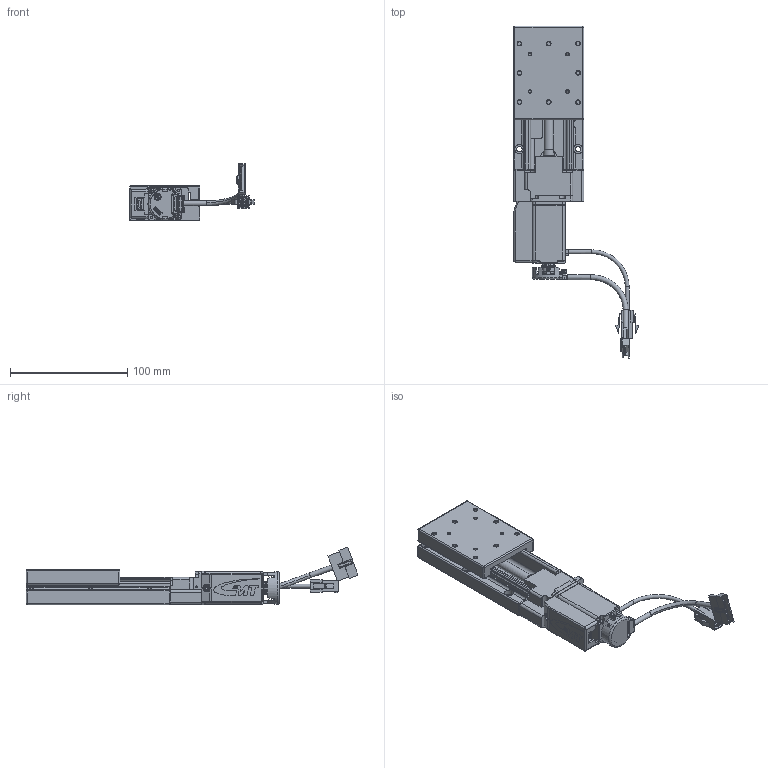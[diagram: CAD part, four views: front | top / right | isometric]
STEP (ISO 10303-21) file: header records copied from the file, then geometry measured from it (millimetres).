
FILE_DESCRIPTION(/* description */ (''),/* implementation_level */ '2;1');
FILE_NAME(/* name */ 'CXS6050-Ezi-Servo-PR-28M',/* time_stamp */ '2023-02-09T21:12:30+01:00',/* author */ (''),/* organization */ ('GMT Europe'),/* preprocessor_version */ 'ST-DEVELOPER v16.7',/* originating_system */ 'Solid Edge',/* authorisation */ 'Unknown');
FILE_SCHEMA (('AUTOMOTIVE_DESIGN {1 0 10303 214 3 1 1}'));
Products named in the file (24): CXS6050-Ezi-Servo-PR-28M; CXS6050; CXS6050-60; CXS6050-50; Motorflansch-ix-001; ISO 4762_M2,5x5_8.8; ISO 4762_M3x10_8.8; Ezi-SERVO-Plus-R; 馨檜蝶; SW3dPS-R28i_R28i_Hub; SW3dPS-R28i_R28i_Disk; SW3dPS-R28i_R28i_PCB; SW3dPS-R28i_Connector; SW3dPS-R28i_R28i_BaseStandoff; SW3dPS-R28i_R28i_LeadFrame; SW3dPS-R28i_R28i_Cover; encoder_cable_28; 馨檜綰; Power_Cable_20; M11-MO-028-03-R01; Gehäuse-ix-001; Platine-ix-001; PCB ix Industrial-001; 09452819001
Assembly tree (23 placements, depth 4):
  CXS6050-Ezi-Servo-PR-28M
    CXS6050
      CXS6050-60
      CXS6050-50
    Motorflansch-ix-001
    ISO 4762_M2,5x5_8.8
    ISO 4762_M3x10_8.8
    Ezi-SERVO-Plus-R
      馨檜蝶
        SW3dPS-R28i_R28i_Hub
        SW3dPS-R28i_R28i_Disk
        SW3dPS-R28i_R28i_PCB
        SW3dPS-R28i_Connector
        SW3dPS-R28i_R28i_BaseStandoff
        SW3dPS-R28i_R28i_LeadFrame
        SW3dPS-R28i_R28i_Cover
        encoder_cable_28
      馨檜綰
        Power_Cable_20
      M11-MO-028-03-R01
    Gehäuse-ix-001
    Platine-ix-001
      PCB ix Industrial-001
      09452819001
Bounding box: 106.51 x 283.19 x 49.45 mm (x, y, z)
Volume: 208521.4 mm3; surface area: 91540.9 mm2
Topology: 18 solids, 18 shells, 4516 faces, 12320 edges, 8106 vertices
Faces by surface type: plane 3218, cylinder 854, bspline 307, cone 80, torus 39, sphere 18
Full cylindrical faces by diameter (mm): 0.9 x54, 1 x15, 1.4 x54, 1.45 x2, 1.5 x4, 1.57 x1, 1.6 x2, 2.013 x2, 2.05 x4, 2.1 x2, 2.459 x1, 2.5 x6, 2.8 x4, 3 x2, 3.172 x1, 3.2 x1, 3.3 x10, 3.5 x1, 3.8 x1, 4.3 x2, 4.5 x6, 4.68 x1, 5 x4, 5.5 x2, 6 x4, 6.2 x1, 7.8 x6, 8 x2, 8.5 x1, 8.69 x1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
Entity records: 163756 total; most frequent: CARTESIAN_POINT 41151, ORIENTED_EDGE 23904, DIRECTION 21543, EDGE_CURVE 11952, LINE 9341, VECTOR 9341, VERTEX_POINT 8036, AXIS2_PLACEMENT_3D 6101
